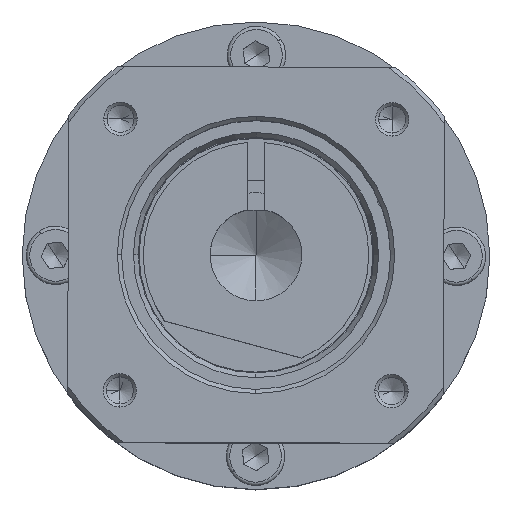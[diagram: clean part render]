
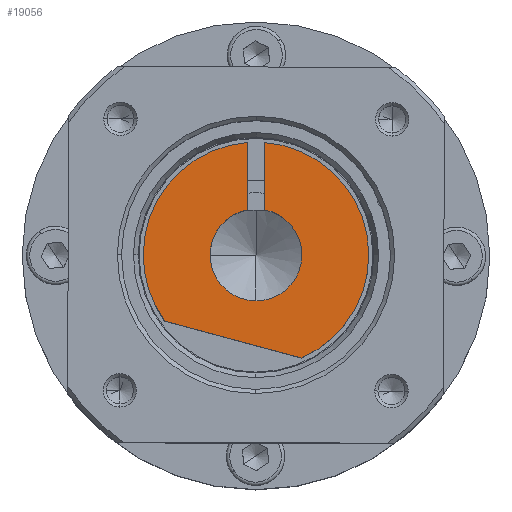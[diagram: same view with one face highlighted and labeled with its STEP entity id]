
A CAD part, top view. The second image highlights one B-rep face of the part: STEP entity #19056.
In plain terms, the highlighted planar face has unit normal (0, 0, 1).
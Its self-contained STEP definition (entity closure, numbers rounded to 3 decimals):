
#406 = CARTESIAN_POINT ( 'NONE',  ( -10.943, -7.906, 136. ) ) ;
#1116 = CARTESIAN_POINT ( 'NONE',  ( -0.97, 13.465, 136. ) ) ;
#1143 = VERTEX_POINT ( 'NONE', #2813 ) ;
#1155 = EDGE_CURVE ( 'NONE', #11513, #14707, #5357, .T. ) ;
#1209 = AXIS2_PLACEMENT_3D ( 'NONE', #17193, #7661, #18800 ) ;
#1489 = VECTOR ( 'NONE', #9946, 1000. ) ;
#1568 = ORIENTED_EDGE ( 'NONE', *, *, #10507, .T. ) ;
#2103 = VERTEX_POINT ( 'NONE', #18931 ) ;
#2565 = CARTESIAN_POINT ( 'NONE',  ( 0., 0., 136. ) ) ;
#2734 = CIRCLE ( 'NONE', #19642, 5.5 ) ;
#2747 = DIRECTION ( 'NONE',  ( -0.002, -1., 0. ) ) ;
#2762 = AXIS2_PLACEMENT_3D ( 'NONE', #8283, #19406, #9898 ) ;
#2813 = CARTESIAN_POINT ( 'NONE',  ( -0.012, -5.5, 136. ) ) ;
#3182 = AXIS2_PLACEMENT_3D ( 'NONE', #18852, #9327, #20434 ) ;
#3840 = DIRECTION ( 'NONE',  ( 0., 0., 1. ) ) ;
#3873 = ORIENTED_EDGE ( 'NONE', *, *, #20568, .T. ) ;
#4149 = DIRECTION ( 'NONE',  ( -1., 0.002, 0. ) ) ;
#4796 = CARTESIAN_POINT ( 'NONE',  ( -10.943, -7.906, 136. ) ) ;
#4975 = ORIENTED_EDGE ( 'NONE', *, *, #1155, .T. ) ;
#5025 = CARTESIAN_POINT ( 'NONE',  ( -0.988, 5.411, 136. ) ) ;
#5357 = LINE ( 'NONE', #9245, #12330 ) ;
#6012 = CARTESIAN_POINT ( 'NONE',  ( 0., 0., 136. ) ) ;
#6384 = VERTEX_POINT ( 'NONE', #4796 ) ;
#6727 = VERTEX_POINT ( 'NONE', #18402 ) ;
#6737 = CARTESIAN_POINT ( 'NONE',  ( 5.468, -12.343, 136. ) ) ;
#6870 = AXIS2_PLACEMENT_3D ( 'NONE', #17153, #7628, #18760 ) ;
#7619 = DIRECTION ( 'NONE',  ( -1., 0.002, 0. ) ) ;
#7628 = DIRECTION ( 'NONE',  ( 0., 0., -1. ) ) ;
#7661 = DIRECTION ( 'NONE',  ( 0., 0., -1. ) ) ;
#7866 = EDGE_CURVE ( 'NONE', #6727, #18933, #14739, .T. ) ;
#8283 = CARTESIAN_POINT ( 'NONE',  ( 0., 0., 136. ) ) ;
#8657 = EDGE_CURVE ( 'NONE', #14707, #1143, #2734, .T. ) ;
#8708 = AXIS2_PLACEMENT_3D ( 'NONE', #11804, #3840, #14988 ) ;
#8829 = VECTOR ( 'NONE', #12855, 1000. ) ;
#9193 = FACE_OUTER_BOUND ( 'NONE', #12582, .T. ) ;
#9245 = CARTESIAN_POINT ( 'NONE',  ( 1.012, 5.406, 136. ) ) ;
#9327 = DIRECTION ( 'NONE',  ( 0., 0., -1. ) ) ;
#9723 = CIRCLE ( 'NONE', #14224, 13.5 ) ;
#9898 = DIRECTION ( 'NONE',  ( -1., 0.002, 0. ) ) ;
#9946 = DIRECTION ( 'NONE',  ( 0.965, -0.261, 0. ) ) ;
#10012 = CIRCLE ( 'NONE', #3182, 13.5 ) ;
#10178 = VERTEX_POINT ( 'NONE', #6737 ) ;
#10507 = EDGE_CURVE ( 'NONE', #1143, #6727, #11576, .T. ) ;
#10800 = ORIENTED_EDGE ( 'NONE', *, *, #13297, .T. ) ;
#11180 = ORIENTED_EDGE ( 'NONE', *, *, #8657, .T. ) ;
#11215 = ORIENTED_EDGE ( 'NONE', *, *, #17796, .F. ) ;
#11513 = VERTEX_POINT ( 'NONE', #12416 ) ;
#11576 = CIRCLE ( 'NONE', #6870, 5.5 ) ;
#11804 = CARTESIAN_POINT ( 'NONE',  ( -0.017, -7.75, 136. ) ) ;
#11998 = VERTEX_POINT ( 'NONE', #1116 ) ;
#12330 = VECTOR ( 'NONE', #2747, 1000. ) ;
#12416 = CARTESIAN_POINT ( 'NONE',  ( 1.03, 13.461, 136. ) ) ;
#12545 = CIRCLE ( 'NONE', #2762, 13.5 ) ;
#12582 = EDGE_LOOP ( 'NONE', ( #20502, #11215, #14592, #3873, #10800, #4975, #11180, #1568, #15749 ) ) ;
#12855 = DIRECTION ( 'NONE',  ( 0.002, 1., 0. ) ) ;
#13041 = LINE ( 'NONE', #19204, #8829 ) ;
#13297 = EDGE_CURVE ( 'NONE', #10178, #11513, #9723, .T. ) ;
#13388 = PLANE ( 'NONE',  #8708 ) ;
#13714 = DIRECTION ( 'NONE',  ( 0., 0., 1. ) ) ;
#14224 = AXIS2_PLACEMENT_3D ( 'NONE', #2565, #13714, #4149 ) ;
#14592 = ORIENTED_EDGE ( 'NONE', *, *, #15939, .F. ) ;
#14707 = VERTEX_POINT ( 'NONE', #17994 ) ;
#14739 = CIRCLE ( 'NONE', #1209, 5.5 ) ;
#14988 = DIRECTION ( 'NONE',  ( -1., 0.002, 0. ) ) ;
#15749 = ORIENTED_EDGE ( 'NONE', *, *, #7866, .T. ) ;
#15881 = EDGE_CURVE ( 'NONE', #18933, #11998, #13041, .T. ) ;
#15939 = EDGE_CURVE ( 'NONE', #6384, #2103, #12545, .T. ) ;
#17149 = DIRECTION ( 'NONE',  ( 0., 0., -1. ) ) ;
#17153 = CARTESIAN_POINT ( 'NONE',  ( 0., 0., 136. ) ) ;
#17193 = CARTESIAN_POINT ( 'NONE',  ( 0., 0., 136. ) ) ;
#17796 = EDGE_CURVE ( 'NONE', #2103, #11998, #10012, .T. ) ;
#17964 = LINE ( 'NONE', #406, #1489 ) ;
#17994 = CARTESIAN_POINT ( 'NONE',  ( 1.012, 5.406, 136. ) ) ;
#18402 = CARTESIAN_POINT ( 'NONE',  ( -5.5, 0.012, 136. ) ) ;
#18760 = DIRECTION ( 'NONE',  ( -1., 0.002, 0. ) ) ;
#18800 = DIRECTION ( 'NONE',  ( -1., 0.002, 0. ) ) ;
#18852 = CARTESIAN_POINT ( 'NONE',  ( 0., 0., 136. ) ) ;
#18931 = CARTESIAN_POINT ( 'NONE',  ( -13.5, 0.03, 136. ) ) ;
#18933 = VERTEX_POINT ( 'NONE', #5025 ) ;
#19056 = ADVANCED_FACE ( 'NONE', ( #9193 ), #13388, .T. ) ;
#19204 = CARTESIAN_POINT ( 'NONE',  ( -0.965, 15.502, 136. ) ) ;
#19406 = DIRECTION ( 'NONE',  ( 0., 0., -1. ) ) ;
#19642 = AXIS2_PLACEMENT_3D ( 'NONE', #6012, #17149, #7619 ) ;
#20434 = DIRECTION ( 'NONE',  ( -1., 0.002, 0. ) ) ;
#20502 = ORIENTED_EDGE ( 'NONE', *, *, #15881, .T. ) ;
#20568 = EDGE_CURVE ( 'NONE', #6384, #10178, #17964, .T. ) ;
